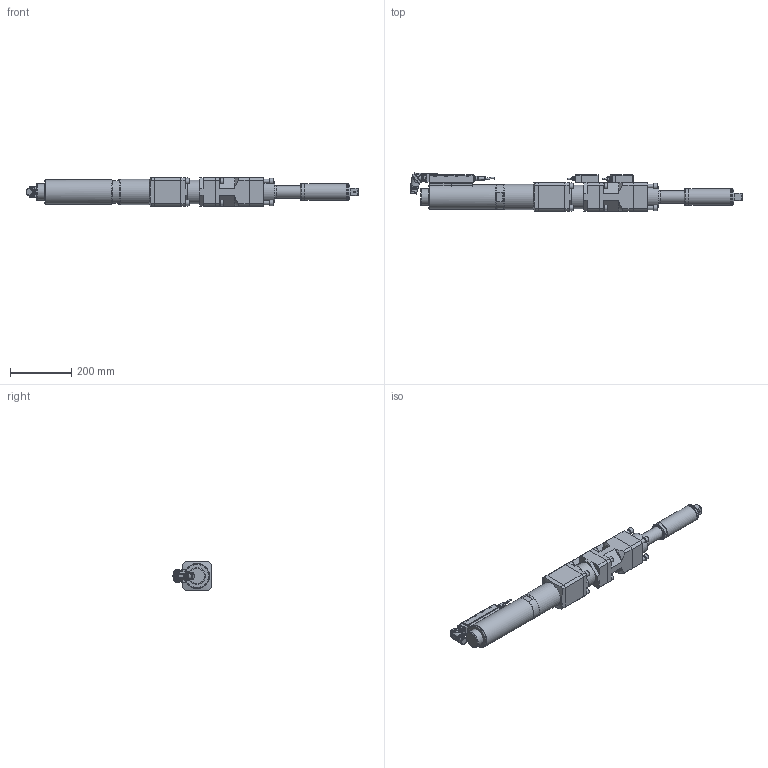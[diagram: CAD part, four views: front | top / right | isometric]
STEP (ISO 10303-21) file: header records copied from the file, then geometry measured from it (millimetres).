
FILE_DESCRIPTION (( 'STEP AP214' ), '1' );
FILE_NAME ('70082463_ESX5130DRX1300DWAX1300.STEP', '2016-11-14T12:19:41', ( 'admin' ), ( '' ), 'SwSTEP 2.0', 'SolidWorks 2014', '' );
FILE_SCHEMA (( 'AUTOMOTIVE_DESIGN' ));
Length unit declared in the file: millimetre
Products named in the file (12): 70082357; 70082327; 70082313_ESX5130_Standard_Winkel_2; 70082293_2; 70057493_Standard_winkel; 70057493_4; 70057493_3; 70057493_2; 70082313; 70082463_ESX5130DRX1300DWAX1300; 7002956_3; 70082374
Assembly tree (12 placements, depth 4):
  70082463_ESX5130DRX1300DWAX1300
    70082313_ESX5130_Standard_Winkel_2
      70082313
      70057493_Standard_winkel
        70057493_2
        70057493_3
        70057493_4
      70082293_2  x2
    70082327
    70082357
    70082374
    7002956_3
Bounding box: 1085.96 x 124.64 x 92 mm (x, y, z)
Volume: 5487711.9 mm3; surface area: 527745.5 mm2
Topology: 14 solids, 14 shells, 2848 faces, 7429 edges, 4817 vertices
Faces by surface type: plane 1435, cylinder 740, cone 318, bspline 269, torus 80, sphere 6
Full cylindrical faces by diameter (mm): 0.5 x14, 0.57 x14, 2 x3, 3 x4, 4.2 x13, 4.9 x6, 5 x8, 5.5 x12, 6 x3, 8.459 x2, 9.1 x1, 10.2 x12, 11 x1, 11.08 x2, 12 x16, 12.3 x2, 14 x4, 14.5 x2, 17.4 x1, 18 x20, 20 x1, 21.15 x1, 21.5 x1, 21.7 x1, 22.3 x1, 24.3 x1, 34 x3, 34.6 x3, 35.5 x2, 40 x1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
Entity records: 96346 total; most frequent: CARTESIAN_POINT 31901, ORIENTED_EDGE 13212, DIRECTION 11566, EDGE_CURVE 6606, VERTEX_POINT 4476, AXIS2_PLACEMENT_3D 4227, EDGE_LOOP 3290, LINE 3112
